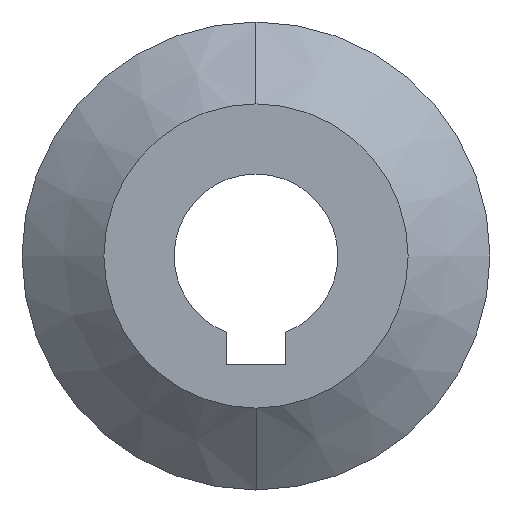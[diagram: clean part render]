
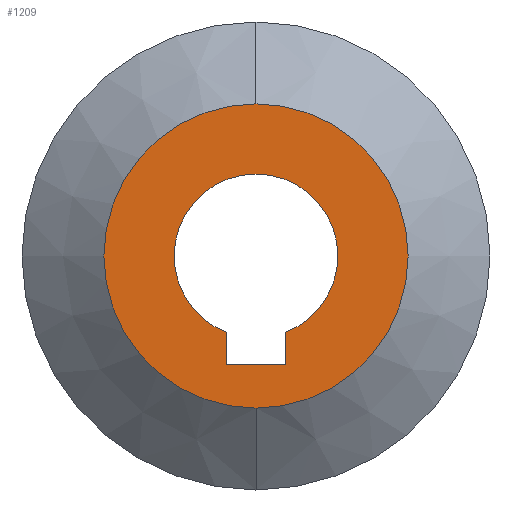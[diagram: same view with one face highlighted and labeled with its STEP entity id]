
A CAD part, left-side view. The second image highlights one B-rep face of the part: STEP entity #1209.
In plain terms, the highlighted planar face has unit normal (-1, 0, 0).
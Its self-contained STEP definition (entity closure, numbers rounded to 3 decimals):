
#21 = DIRECTION ( 'NONE',  ( -1., 0., 0. ) ) ;
#26 = ORIENTED_EDGE ( 'NONE', *, *, #330, .T. ) ;
#70 = CARTESIAN_POINT ( 'NONE',  ( -28., -2.5, -9.3 ) ) ;
#80 = AXIS2_PLACEMENT_3D ( 'NONE', #1858, #1412, #306 ) ;
#109 = DIRECTION ( 'NONE',  ( 1., 0., 0. ) ) ;
#155 = CARTESIAN_POINT ( 'NONE',  ( -28., 0., 0. ) ) ;
#186 = ORIENTED_EDGE ( 'NONE', *, *, #188, .F. ) ;
#188 = EDGE_CURVE ( 'NONE', #734, #1308, #1759, .T. ) ;
#198 = DIRECTION ( 'NONE',  ( 0., 0., 1. ) ) ;
#210 = FACE_OUTER_BOUND ( 'NONE', #765, .T. ) ;
#215 = LINE ( 'NONE', #1572, #1267 ) ;
#228 = VERTEX_POINT ( 'NONE', #735 ) ;
#254 = CARTESIAN_POINT ( 'NONE',  ( -28., 0., 0. ) ) ;
#306 = DIRECTION ( 'NONE',  ( 0., 0., -1. ) ) ;
#319 = EDGE_CURVE ( 'NONE', #1009, #1149, #215, .T. ) ;
#330 = EDGE_CURVE ( 'NONE', #228, #340, #1927, .T. ) ;
#333 = DIRECTION ( 'NONE',  ( 0., 0., -1. ) ) ;
#340 = VERTEX_POINT ( 'NONE', #70 ) ;
#432 = ORIENTED_EDGE ( 'NONE', *, *, #1470, .F. ) ;
#448 = AXIS2_PLACEMENT_3D ( 'NONE', #254, #109, #1047 ) ;
#498 = FACE_BOUND ( 'NONE', #544, .T. ) ;
#527 = CARTESIAN_POINT ( 'NONE',  ( -28., 0., -13. ) ) ;
#544 = EDGE_LOOP ( 'NONE', ( #26, #1413, #1433, #1694 ) ) ;
#734 = VERTEX_POINT ( 'NONE', #1005 ) ;
#735 = CARTESIAN_POINT ( 'NONE',  ( -28., -2.5, -6.538 ) ) ;
#765 = EDGE_LOOP ( 'NONE', ( #432, #186 ) ) ;
#902 = EDGE_CURVE ( 'NONE', #340, #1009, #1707, .T. ) ;
#934 = DIRECTION ( 'NONE',  ( 0., 1., 0. ) ) ;
#1005 = CARTESIAN_POINT ( 'NONE',  ( -28., 0., 13. ) ) ;
#1009 = VERTEX_POINT ( 'NONE', #1252 ) ;
#1047 = DIRECTION ( 'NONE',  ( 0., 0., -1. ) ) ;
#1085 = AXIS2_PLACEMENT_3D ( 'NONE', #155, #1227, #1853 ) ;
#1092 = CARTESIAN_POINT ( 'NONE',  ( -28., 2.5, -9.3 ) ) ;
#1107 = PLANE ( 'NONE',  #1245 ) ;
#1149 = VERTEX_POINT ( 'NONE', #1986 ) ;
#1168 = VECTOR ( 'NONE', #333, 1000. ) ;
#1187 = EDGE_CURVE ( 'NONE', #1149, #228, #1997, .T. ) ;
#1197 = VECTOR ( 'NONE', #934, 1000. ) ;
#1209 = ADVANCED_FACE ( 'NONE', ( #498, #210 ), #1107, .T. ) ;
#1227 = DIRECTION ( 'NONE',  ( 1., 0., 0. ) ) ;
#1245 = AXIS2_PLACEMENT_3D ( 'NONE', #1276, #21, #1589 ) ;
#1252 = CARTESIAN_POINT ( 'NONE',  ( -28., 2.5, -9.3 ) ) ;
#1267 = VECTOR ( 'NONE', #198, 1000. ) ;
#1276 = CARTESIAN_POINT ( 'NONE',  ( -28., 13., 0. ) ) ;
#1308 = VERTEX_POINT ( 'NONE', #527 ) ;
#1412 = DIRECTION ( 'NONE',  ( 1., 0., 0. ) ) ;
#1413 = ORIENTED_EDGE ( 'NONE', *, *, #902, .T. ) ;
#1418 = CIRCLE ( 'NONE', #448, 13. ) ;
#1433 = ORIENTED_EDGE ( 'NONE', *, *, #319, .T. ) ;
#1445 = CARTESIAN_POINT ( 'NONE',  ( -28., -2.5, 0. ) ) ;
#1470 = EDGE_CURVE ( 'NONE', #1308, #734, #1418, .T. ) ;
#1572 = CARTESIAN_POINT ( 'NONE',  ( -28., 2.5, 0. ) ) ;
#1589 = DIRECTION ( 'NONE',  ( 0., 0., 1. ) ) ;
#1694 = ORIENTED_EDGE ( 'NONE', *, *, #1187, .T. ) ;
#1707 = LINE ( 'NONE', #1092, #1197 ) ;
#1759 = CIRCLE ( 'NONE', #80, 13. ) ;
#1853 = DIRECTION ( 'NONE',  ( 0., 0., -1. ) ) ;
#1858 = CARTESIAN_POINT ( 'NONE',  ( -28., 0., 0. ) ) ;
#1927 = LINE ( 'NONE', #1445, #1168 ) ;
#1986 = CARTESIAN_POINT ( 'NONE',  ( -28., 2.5, -6.538 ) ) ;
#1997 = CIRCLE ( 'NONE', #1085, 7. ) ;
